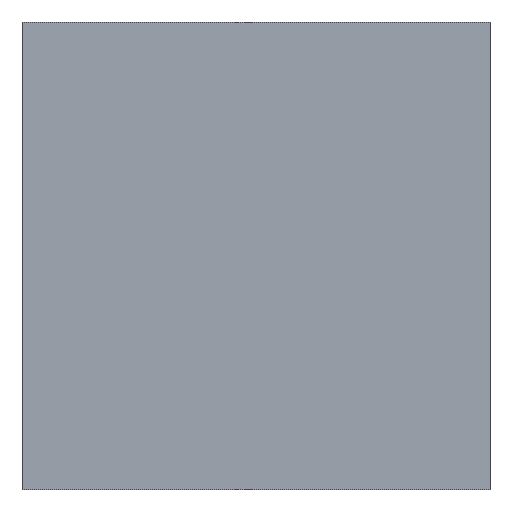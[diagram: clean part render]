
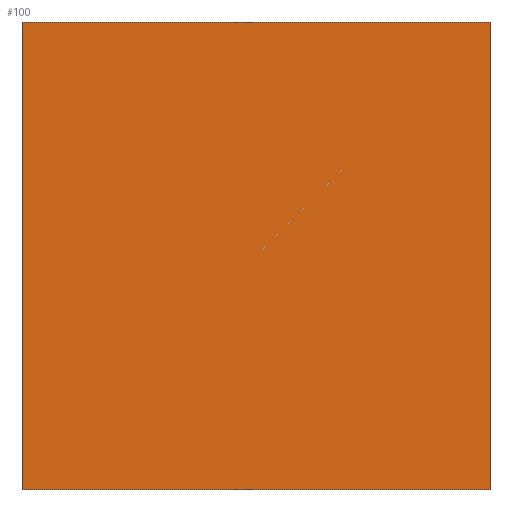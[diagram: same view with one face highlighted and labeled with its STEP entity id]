
A CAD part, front view. The second image highlights one B-rep face of the part: STEP entity #100.
In plain terms, the highlighted planar face has unit normal (0, -1, 0).
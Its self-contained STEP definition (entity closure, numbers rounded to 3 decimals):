
#66 = EDGE_CURVE( '', #84, #128, #163, .T. );
#68 = VERTEX_POINT( '', #165 );
#70 = EDGE_CURVE( '', #68, #84, #167, .T. );
#80 = EDGE_CURVE( '', #130, #68, #177, .T. );
#84 = VERTEX_POINT( '', #181 );
#88 = EDGE_CURVE( '', #128, #130, #185, .T. );
#100 = ADVANCED_FACE( '', ( #199 ), #200, .F. );
#128 = VERTEX_POINT( '', #231 );
#130 = VERTEX_POINT( '', #233 );
#163 = LINE( '', #260, #261 );
#165 = CARTESIAN_POINT( '', ( -7.5, -23., 7.5 ) );
#167 = LINE( '', #266, #267 );
#177 = LINE( '', #280, #281 );
#181 = CARTESIAN_POINT( '', ( 7.5, -23., 7.5 ) );
#185 = LINE( '', #292, #293 );
#199 = FACE_OUTER_BOUND( '', #311, .T. );
#200 = PLANE( '', #312 );
#231 = CARTESIAN_POINT( '', ( 7.5, -23., -7.5 ) );
#233 = CARTESIAN_POINT( '', ( -7.5, -23., -7.5 ) );
#260 = CARTESIAN_POINT( '', ( 7.5, -23., 7.5 ) );
#261 = VECTOR( '', #381, 1. );
#266 = CARTESIAN_POINT( '', ( -7.5, -23., 7.5 ) );
#267 = VECTOR( '', #382, 1. );
#280 = CARTESIAN_POINT( '', ( -7.5, -23., -7.5 ) );
#281 = VECTOR( '', #384, 1. );
#292 = CARTESIAN_POINT( '', ( 7.5, -23., -7.5 ) );
#293 = VECTOR( '', #391, 1. );
#311 = EDGE_LOOP( '', ( #409, #410, #411, #412 ) );
#312 = AXIS2_PLACEMENT_3D( '', #413, #414, #415 );
#381 = DIRECTION( '', ( 0., 0., -1. ) );
#382 = DIRECTION( '', ( 1., 0., 0. ) );
#384 = DIRECTION( '', ( 0., 0., 1. ) );
#391 = DIRECTION( '', ( -1., 0., 0. ) );
#409 = ORIENTED_EDGE( '', *, *, #70, .F. );
#410 = ORIENTED_EDGE( '', *, *, #80, .F. );
#411 = ORIENTED_EDGE( '', *, *, #88, .F. );
#412 = ORIENTED_EDGE( '', *, *, #66, .F. );
#413 = CARTESIAN_POINT( '', ( 0., -23., 0. ) );
#414 = DIRECTION( '', ( 0., 1., 0. ) );
#415 = DIRECTION( '', ( 0., 0., 1. ) );
